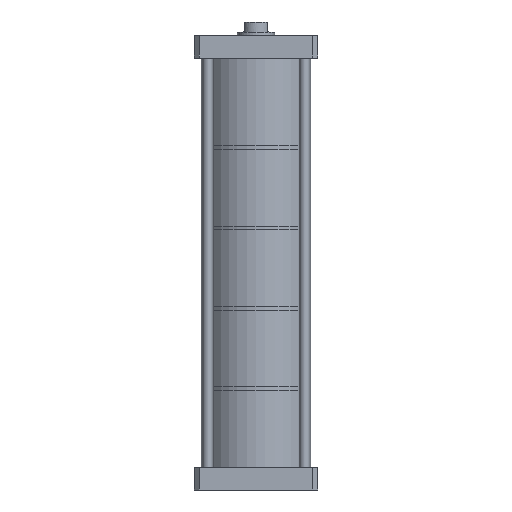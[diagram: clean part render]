
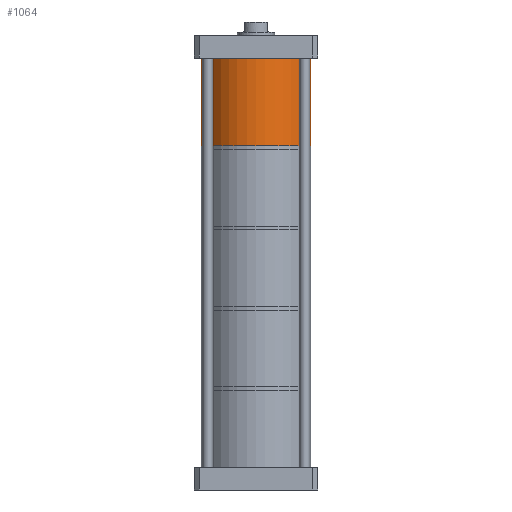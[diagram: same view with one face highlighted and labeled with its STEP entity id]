
A CAD part, front view. The second image highlights one B-rep face of the part: STEP entity #1064.
In plain terms, the highlighted cylindrical face has radius 53 mm (diameter 106 mm), a partial arc.
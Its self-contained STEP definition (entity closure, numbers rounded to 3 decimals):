
#169 = VECTOR ( 'NONE', #576, 1000. ) ;
#343 = EDGE_CURVE ( 'NONE', #3327, #4525, #5002, .T. ) ;
#576 = DIRECTION ( 'NONE',  ( 0., 0., 1. ) ) ;
#1064 = ADVANCED_FACE ( 'NONE', ( #2040 ), #2975, .T. ) ;
#1122 = EDGE_CURVE ( 'NONE', #1183, #3422, #4868, .T. ) ;
#1183 = VERTEX_POINT ( 'NONE', #4130 ) ;
#1236 = DIRECTION ( 'NONE',  ( 0., 0., 1. ) ) ;
#1327 = ORIENTED_EDGE ( 'NONE', *, *, #1122, .F. ) ;
#1343 = LINE ( 'NONE', #5092, #169 ) ;
#1385 = ORIENTED_EDGE ( 'NONE', *, *, #2916, .F. ) ;
#1591 = CARTESIAN_POINT ( 'NONE',  ( 53., 0., -85. ) ) ;
#1727 = LINE ( 'NONE', #1591, #3723 ) ;
#2040 = FACE_OUTER_BOUND ( 'NONE', #4891, .T. ) ;
#2772 = AXIS2_PLACEMENT_3D ( 'NONE', #4671, #4657, #4639 ) ;
#2916 = EDGE_CURVE ( 'NONE', #3422, #4525, #1343, .T. ) ;
#2975 = CYLINDRICAL_SURFACE ( 'NONE', #3073, 53. ) ;
#3022 = ORIENTED_EDGE ( 'NONE', *, *, #3716, .T. ) ;
#3073 = AXIS2_PLACEMENT_3D ( 'NONE', #5085, #5052, #5153 ) ;
#3204 = CARTESIAN_POINT ( 'NONE',  ( -53., 0., -85. ) ) ;
#3239 = DIRECTION ( 'NONE',  ( 1., 0., 0. ) ) ;
#3258 = DIRECTION ( 'NONE',  ( 0., 0., -1. ) ) ;
#3263 = CARTESIAN_POINT ( 'NONE',  ( 0., 0., 0. ) ) ;
#3327 = VERTEX_POINT ( 'NONE', #4446 ) ;
#3422 = VERTEX_POINT ( 'NONE', #3204 ) ;
#3716 = EDGE_CURVE ( 'NONE', #1183, #3327, #1727, .T. ) ;
#3723 = VECTOR ( 'NONE', #1236, 1000. ) ;
#4130 = CARTESIAN_POINT ( 'NONE',  ( 53., 0., -85. ) ) ;
#4446 = CARTESIAN_POINT ( 'NONE',  ( 53., 0., 0. ) ) ;
#4494 = AXIS2_PLACEMENT_3D ( 'NONE', #3263, #3258, #3239 ) ;
#4525 = VERTEX_POINT ( 'NONE', #5278 ) ;
#4639 = DIRECTION ( 'NONE',  ( -1., 0., 0. ) ) ;
#4657 = DIRECTION ( 'NONE',  ( 0., 0., -1. ) ) ;
#4671 = CARTESIAN_POINT ( 'NONE',  ( 0., 0., -85. ) ) ;
#4781 = ORIENTED_EDGE ( 'NONE', *, *, #343, .T. ) ;
#4868 = CIRCLE ( 'NONE', #2772, 53. ) ;
#4891 = EDGE_LOOP ( 'NONE', ( #1385, #1327, #3022, #4781 ) ) ;
#5002 = CIRCLE ( 'NONE', #4494, 53. ) ;
#5052 = DIRECTION ( 'NONE',  ( 0., 0., 1. ) ) ;
#5085 = CARTESIAN_POINT ( 'NONE',  ( 0., 0., -85. ) ) ;
#5092 = CARTESIAN_POINT ( 'NONE',  ( -53., 0., -85. ) ) ;
#5153 = DIRECTION ( 'NONE',  ( 1., 0., 0. ) ) ;
#5278 = CARTESIAN_POINT ( 'NONE',  ( -53., 0., 0. ) ) ;
